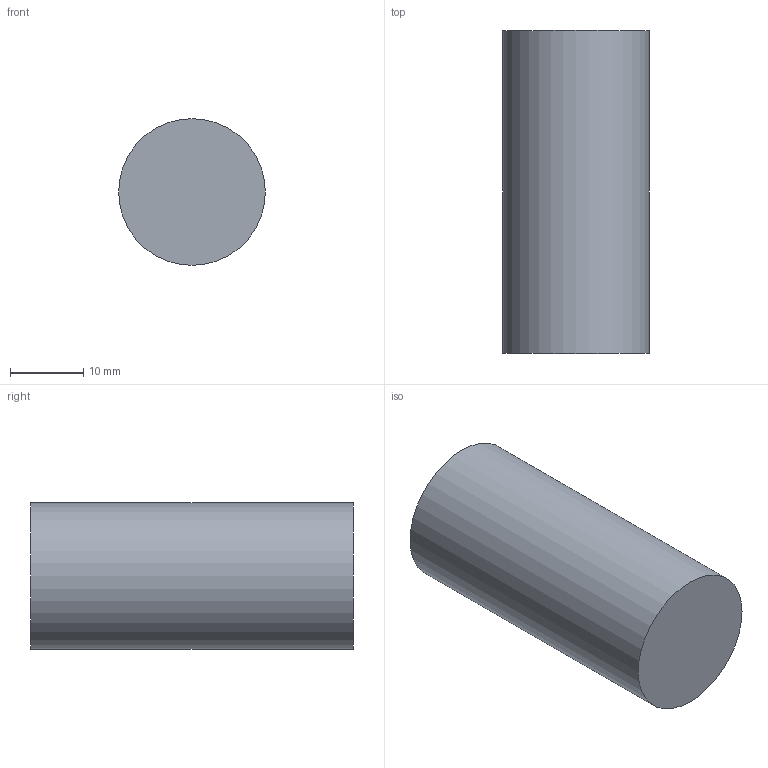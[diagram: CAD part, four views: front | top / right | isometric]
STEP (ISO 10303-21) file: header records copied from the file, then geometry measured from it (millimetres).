
FILE_DESCRIPTION(('Open CASCADE Model'),'2;1');
FILE_NAME('Open CASCADE Shape Model','2026-10-04T01:02:31',('Author'),( 'Open CASCADE'),'Open CASCADE STEP processor 8.0','Open CASCADE 8.0' ,'Unknown');
FILE_SCHEMA(('AUTOMOTIVE_DESIGN { 1 0 10303 214 1 1 1 1 }'));
Length unit declared in the file: millimetre
Products named in the file (1): Open CASCADE STEP translator 8.0 258
Bounding box: 20 x 44 x 20 mm (x, y, z)
Volume: 13823 mm3; surface area: 3392.9 mm2
Topology: 1 solids, 1 shells, 3 faces, 3 edges, 2 vertices
Faces by surface type: plane 2, cylinder 1
Full cylindrical faces by diameter (mm): 20 x1
Entity records: 108 total; most frequent: DIRECTION 19, CARTESIAN_POINT 15, AXIS2_PLACEMENT_3D 6, ORIENTED_EDGE 6, PCURVE 6, DEFINITIONAL_REPRESENTATION 6, LINE 5, VECTOR 5
